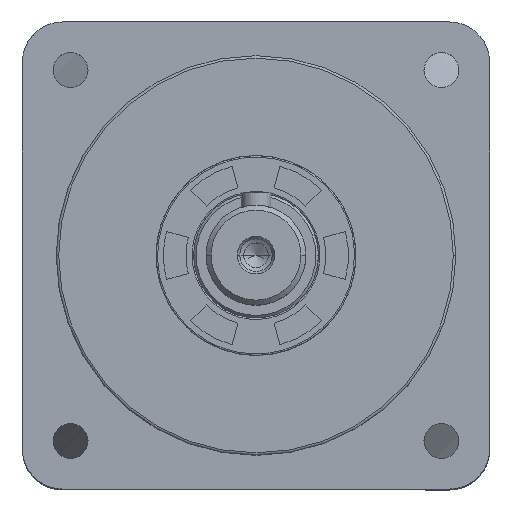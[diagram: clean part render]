
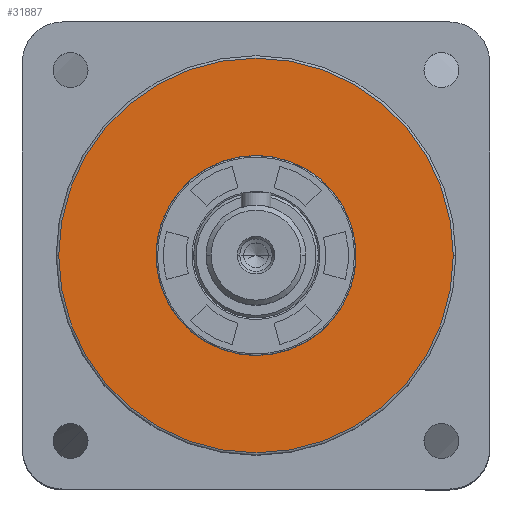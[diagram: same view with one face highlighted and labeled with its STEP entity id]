
A CAD part, top view. The second image highlights one B-rep face of the part: STEP entity #31887.
In plain terms, the highlighted planar face has unit normal (0, 0, 1).
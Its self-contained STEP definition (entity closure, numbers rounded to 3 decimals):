
#288 = DIRECTION ( 'NONE',  ( 1., 0., 0. ) ) ;
#591 = FACE_OUTER_BOUND ( 'NONE', #15068, .T. ) ;
#1475 = ORIENTED_EDGE ( 'NONE', *, *, #18576, .T. ) ;
#2155 = CIRCLE ( 'NONE', #31263, 20. ) ;
#2812 = CARTESIAN_POINT ( 'NONE',  ( 0., 0., 26.1 ) ) ;
#3954 = EDGE_LOOP ( 'NONE', ( #7426, #19631 ) ) ;
#4484 = CARTESIAN_POINT ( 'NONE',  ( 0., 0., 26.1 ) ) ;
#5510 = DIRECTION ( 'NONE',  ( 1., 0., 0. ) ) ;
#7426 = ORIENTED_EDGE ( 'NONE', *, *, #10670, .F. ) ;
#7562 = VERTEX_POINT ( 'NONE', #12239 ) ;
#7601 = CARTESIAN_POINT ( 'NONE',  ( 0., 0., 26.1 ) ) ;
#9885 = DIRECTION ( 'NONE',  ( 0., 0., 1. ) ) ;
#10582 = DIRECTION ( 'NONE',  ( 0., 0., 1. ) ) ;
#10670 = EDGE_CURVE ( 'NONE', #23746, #20065, #20439, .T. ) ;
#10985 = EDGE_CURVE ( 'NONE', #7562, #18889, #23139, .T. ) ;
#11705 = DIRECTION ( 'NONE',  ( 0., 0., 1. ) ) ;
#11743 = CIRCLE ( 'NONE', #24754, 39.5 ) ;
#12239 = CARTESIAN_POINT ( 'NONE',  ( 39.5, 0., 26.1 ) ) ;
#13895 = DIRECTION ( 'NONE',  ( 0., 0., 1. ) ) ;
#15068 = EDGE_LOOP ( 'NONE', ( #20195, #1475 ) ) ;
#15547 = DIRECTION ( 'NONE',  ( 1., 0., 0. ) ) ;
#16036 = FACE_BOUND ( 'NONE', #3954, .T. ) ;
#18576 = EDGE_CURVE ( 'NONE', #18889, #7562, #11743, .T. ) ;
#18889 = VERTEX_POINT ( 'NONE', #20665 ) ;
#19103 = AXIS2_PLACEMENT_3D ( 'NONE', #4484, #11705, #26475 ) ;
#19631 = ORIENTED_EDGE ( 'NONE', *, *, #31545, .F. ) ;
#20065 = VERTEX_POINT ( 'NONE', #29220 ) ;
#20195 = ORIENTED_EDGE ( 'NONE', *, *, #10985, .T. ) ;
#20439 = CIRCLE ( 'NONE', #19103, 20. ) ;
#20665 = CARTESIAN_POINT ( 'NONE',  ( -39.5, 0., 26.1 ) ) ;
#21354 = CARTESIAN_POINT ( 'NONE',  ( 0., 0., 26.1 ) ) ;
#21778 = AXIS2_PLACEMENT_3D ( 'NONE', #7601, #9885, #288 ) ;
#23139 = CIRCLE ( 'NONE', #21778, 39.5 ) ;
#23711 = DIRECTION ( 'NONE',  ( 1., 0., 0. ) ) ;
#23746 = VERTEX_POINT ( 'NONE', #23904 ) ;
#23904 = CARTESIAN_POINT ( 'NONE',  ( 20., 0., 26.1 ) ) ;
#24754 = AXIS2_PLACEMENT_3D ( 'NONE', #21354, #13895, #23711 ) ;
#24982 = DIRECTION ( 'NONE',  ( 0., 0., 1. ) ) ;
#25217 = CARTESIAN_POINT ( 'NONE',  ( 0., 0., 26.1 ) ) ;
#26475 = DIRECTION ( 'NONE',  ( 1., 0., 0. ) ) ;
#27379 = PLANE ( 'NONE',  #27660 ) ;
#27660 = AXIS2_PLACEMENT_3D ( 'NONE', #2812, #24982, #5510 ) ;
#29220 = CARTESIAN_POINT ( 'NONE',  ( -20., 0., 26.1 ) ) ;
#31263 = AXIS2_PLACEMENT_3D ( 'NONE', #25217, #10582, #15547 ) ;
#31545 = EDGE_CURVE ( 'NONE', #20065, #23746, #2155, .T. ) ;
#31887 = ADVANCED_FACE ( 'NONE', ( #16036, #591 ), #27379, .T. ) ;
